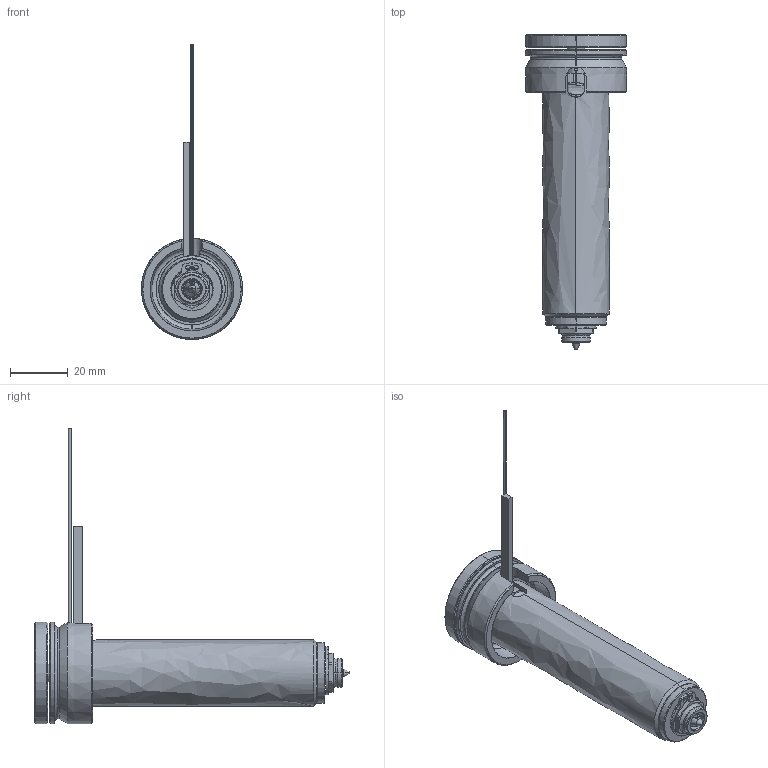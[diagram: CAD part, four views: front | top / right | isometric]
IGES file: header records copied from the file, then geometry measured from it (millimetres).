
Start section: SolidWorks IGES file using analytic representation for surfaces
Global section: file name: C:\Documents and Settings\ws-20\Desktop\TEM\UGEP3052-S-A-0 [Øf-0.70 ØC-6.0].IGS; native system: SolidWorks 2012; preprocessor: SolidWorks 2012; author: ws-20; date: 120402.112737; units: millimetre
Bounding box: 35 x 108.8 x 102.1 mm (x, y, z)
Surface area: 19075.4 mm2 (no closed solid volume)
Topology: 0 solids, 0 shells, 135 faces, 2056 edges, 2056 vertices
Faces by surface type: revolution 83, bspline 52
